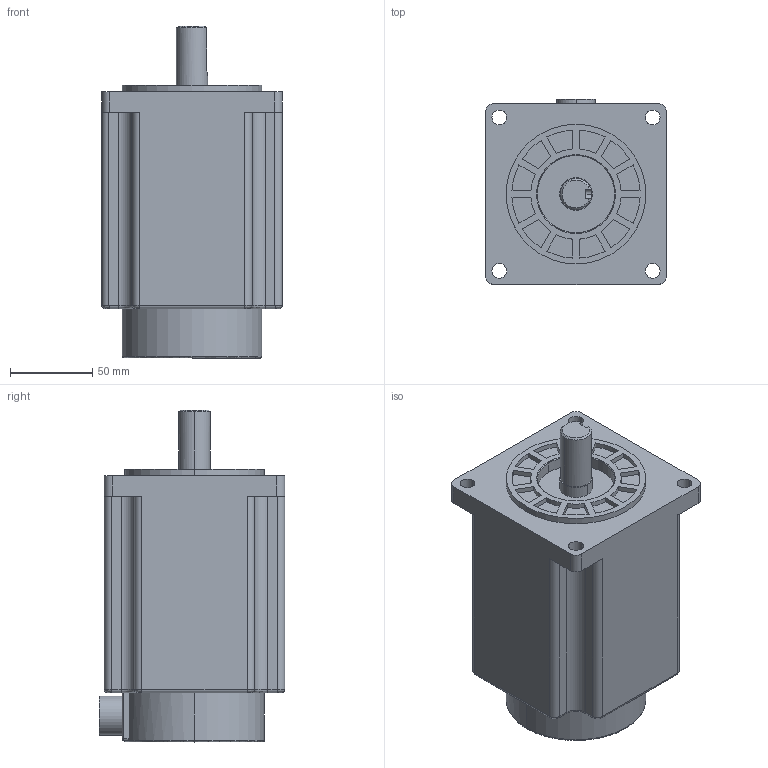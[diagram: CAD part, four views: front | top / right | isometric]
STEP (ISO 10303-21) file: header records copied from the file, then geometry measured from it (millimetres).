
FILE_DESCRIPTION (( 'STEP AP203' ), '1' );
FILE_NAME ('YK31115A.STEP', '2021-07-03T09:25:21', ( 'Admin' ), ( '' ), 'SwSTEP 2.0', 'SolidWorks 2016', '' );
FILE_SCHEMA (( 'CONFIG_CONTROL_DESIGN' ));
Length unit declared in the file: millimetre
Products named in the file (1): YK31115A
Bounding box: 110 x 113 x 202 mm (x, y, z)
Volume: 1624383.7 mm3; surface area: 96156.7 mm2
Topology: 1 solids, 1 shells, 190 faces, 461 edges, 294 vertices
Faces by surface type: cylinder 90, plane 72, bspline 16, torus 8, cone 4
Entity records: 5904 total; most frequent: CARTESIAN_POINT 1301, DIRECTION 992, ORIENTED_EDGE 918, EDGE_CURVE 459, AXIS2_PLACEMENT_3D 381, VERTEX_POINT 294, VECTOR 230, LINE 230
